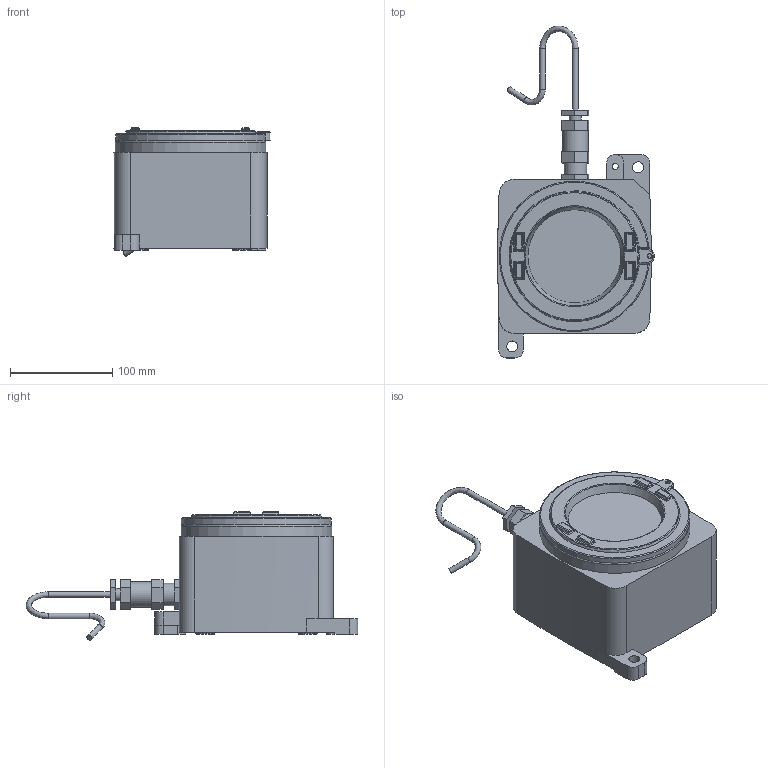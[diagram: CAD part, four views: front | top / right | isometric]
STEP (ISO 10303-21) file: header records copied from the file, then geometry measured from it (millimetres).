
FILE_DESCRIPTION(/* description */ (''),/* implementation_level */ '2;1');
FILE_NAME(/* name */ '3DCAD_ODSL96_EX_D.stp',/* time_stamp */ '2016-04-26T13:04:10+02:00',/* author */ ('CC2'),/* organization */ ('Leuze electronic'),/* preprocessor_version */ 'ST-DEVELOPER v15',/* originating_system */ 'SIEMENS PLM Software NX 8.5',/* authorisation */ '');
FILE_SCHEMA (('AUTOMOTIVE_DESIGN { 1 0 10303 214 3 1 1 1 }'));
Length unit declared in the file: millimetre
Products named in the file (7): T_C_M_7524_05; 009203_00.0; 007362_00.0; 009200_00.0; 009192_00.0; 009186_00.0; 009202_00.0
Assembly tree (6 placements, depth 2):
  009202_00.0
    009186_00.0
    009192_00.0
    009200_00.0
    007362_00.0
    009203_00.0
    T_C_M_7524_05
Bounding box: 152.94 x 324.41 x 125.49 mm (x, y, z)
Volume: 1426367.4 mm3; surface area: 262440.7 mm2
Topology: 7 solids, 7 shells, 514 faces, 1316 edges, 820 vertices
Faces by surface type: plane 250, cylinder 167, bspline 42, torus 14, cone 14, extrusion 14, sphere 13
Full cylindrical faces by diameter (mm): 4.826 x1, 5 x1, 5.3 x2, 5.5 x2, 6 x1, 10 x1, 10.6 x1, 11 x1, 11.8 x1, 14 x1, 16 x1, 16.6 x2, 18 x1, 18.5 x2, 19 x1, 22 x1, 24.5 x1, 24.8 x1, 90 x1, 128 x2, 147 x1
Entity records: 19708 total; most frequent: CARTESIAN_POINT 6323, ORIENTED_EDGE 2468, DIRECTION 2274, EDGE_CURVE 1234, VERTEX_POINT 805, AXIS2_PLACEMENT_3D 794, VECTOR 686, LINE 672
